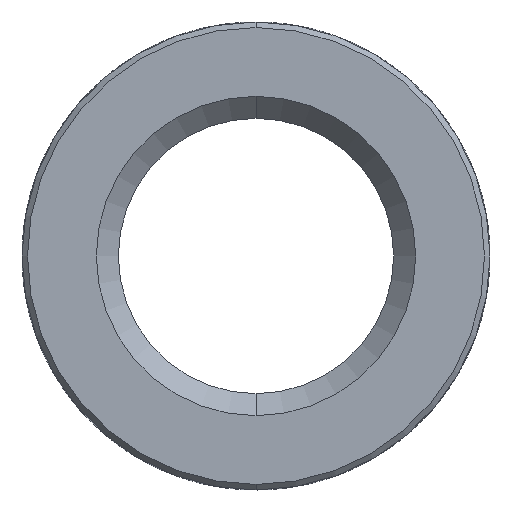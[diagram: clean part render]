
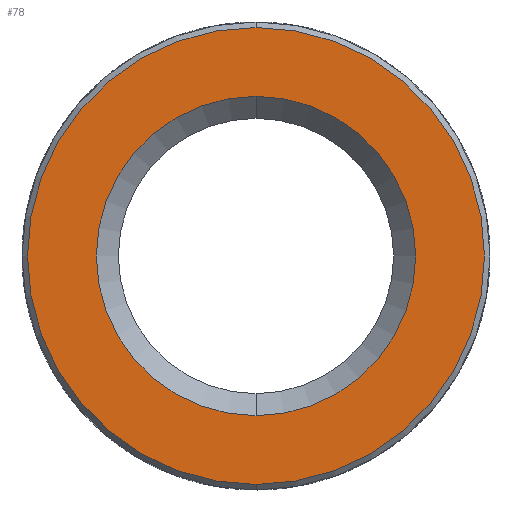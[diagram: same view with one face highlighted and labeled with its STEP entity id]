
A CAD part, front view. The second image highlights one B-rep face of the part: STEP entity #78.
In plain terms, the highlighted planar face has unit normal (0, -1, 0).
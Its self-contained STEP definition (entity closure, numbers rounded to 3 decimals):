
#8 = CARTESIAN_POINT ( 'NONE',  ( 0., -5.1, 4.15 ) ) ;
#55 = VERTEX_POINT ( 'NONE', #3294 ) ;
#78 = ADVANCED_FACE ( 'NONE', ( #119, #2704 ), #1003, .T. ) ;
#119 = FACE_OUTER_BOUND ( 'NONE', #2267, .T. ) ;
#154 = DIRECTION ( 'NONE',  ( 0., 1., 0. ) ) ;
#161 = CIRCLE ( 'NONE', #1427, 4.15 ) ;
#188 = AXIS2_PLACEMENT_3D ( 'NONE', #1265, #2171, #2142 ) ;
#305 = VERTEX_POINT ( 'NONE', #8 ) ;
#393 = CARTESIAN_POINT ( 'NONE',  ( 0., -5.1, -4.15 ) ) ;
#477 = CIRCLE ( 'NONE', #3604, 2.9 ) ;
#1003 = PLANE ( 'NONE',  #188 ) ;
#1265 = CARTESIAN_POINT ( 'NONE',  ( 0., -5.1, 4.25 ) ) ;
#1363 = EDGE_CURVE ( 'NONE', #55, #2281, #477, .T. ) ;
#1427 = AXIS2_PLACEMENT_3D ( 'NONE', #3634, #1555, #2753 ) ;
#1555 = DIRECTION ( 'NONE',  ( 0., -1., 0. ) ) ;
#1561 = DIRECTION ( 'NONE',  ( 0., 1., 0. ) ) ;
#1580 = CARTESIAN_POINT ( 'NONE',  ( 0., -5.1, 0. ) ) ;
#1590 = DIRECTION ( 'NONE',  ( 0., 0., -1. ) ) ;
#1703 = AXIS2_PLACEMENT_3D ( 'NONE', #2750, #154, #3038 ) ;
#1855 = ORIENTED_EDGE ( 'NONE', *, *, #1363, .T. ) ;
#1904 = EDGE_CURVE ( 'NONE', #2281, #55, #2387, .T. ) ;
#1965 = ORIENTED_EDGE ( 'NONE', *, *, #1904, .T. ) ;
#2142 = DIRECTION ( 'NONE',  ( 0., 0., -1. ) ) ;
#2171 = DIRECTION ( 'NONE',  ( 0., -1., 0. ) ) ;
#2242 = ORIENTED_EDGE ( 'NONE', *, *, #3686, .T. ) ;
#2267 = EDGE_LOOP ( 'NONE', ( #2242, #3458 ) ) ;
#2281 = VERTEX_POINT ( 'NONE', #3537 ) ;
#2387 = CIRCLE ( 'NONE', #1703, 2.9 ) ;
#2704 = FACE_BOUND ( 'NONE', #3455, .T. ) ;
#2750 = CARTESIAN_POINT ( 'NONE',  ( 0., -5.1, 0. ) ) ;
#2753 = DIRECTION ( 'NONE',  ( 0., 0., -1. ) ) ;
#2845 = CIRCLE ( 'NONE', #3534, 4.15 ) ;
#3038 = DIRECTION ( 'NONE',  ( 0., 0., -1. ) ) ;
#3109 = VERTEX_POINT ( 'NONE', #393 ) ;
#3294 = CARTESIAN_POINT ( 'NONE',  ( 0., -5.1, 2.9 ) ) ;
#3327 = CARTESIAN_POINT ( 'NONE',  ( 0., -5.1, 0. ) ) ;
#3347 = EDGE_CURVE ( 'NONE', #3109, #305, #2845, .T. ) ;
#3455 = EDGE_LOOP ( 'NONE', ( #1965, #1855 ) ) ;
#3458 = ORIENTED_EDGE ( 'NONE', *, *, #3347, .T. ) ;
#3534 = AXIS2_PLACEMENT_3D ( 'NONE', #1580, #3612, #3636 ) ;
#3537 = CARTESIAN_POINT ( 'NONE',  ( 0., -5.1, -2.9 ) ) ;
#3604 = AXIS2_PLACEMENT_3D ( 'NONE', #3327, #1561, #1590 ) ;
#3612 = DIRECTION ( 'NONE',  ( 0., -1., 0. ) ) ;
#3634 = CARTESIAN_POINT ( 'NONE',  ( 0., -5.1, 0. ) ) ;
#3636 = DIRECTION ( 'NONE',  ( 0., 0., -1. ) ) ;
#3686 = EDGE_CURVE ( 'NONE', #305, #3109, #161, .T. ) ;
